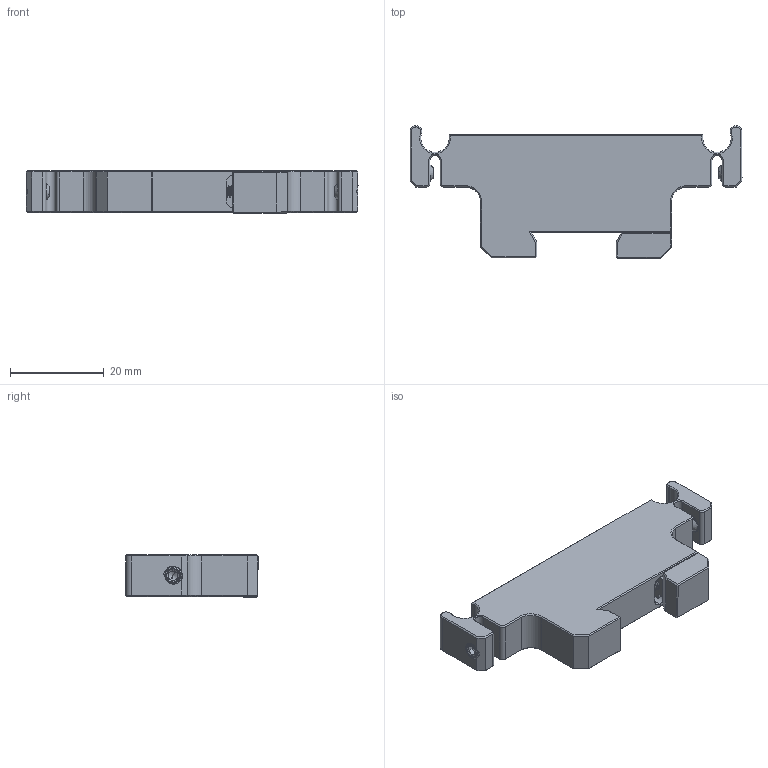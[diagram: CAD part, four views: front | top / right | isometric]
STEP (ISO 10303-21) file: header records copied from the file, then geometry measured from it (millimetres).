
FILE_DESCRIPTION((''),'2;1');
FILE_NAME('LRA60-B_ASM','2024-12-04T17:06:00',('R&D'),(''),'CREO PARAMETRIC BY PTC INC, 2021063','CREO PARAMETRIC BY PTC INC, 2021063','');
FILE_SCHEMA(('CONFIG_CONTROL_DESIGN'));
Products named in the file (9): LRA60-B-A3; LRA60-B-A4; LRA60-B-A5; LRA60-B-A6; LRA60-B-A7; LRA60-B-A8; LRA60-B-A2_ASM; LRA60-B-A1_ASM; LRA60-B_ASM
Assembly tree (8 placements, depth 4):
  LRA60-B_ASM
    LRA60-B-A1_ASM
      LRA60-B-A2_ASM
        LRA60-B-A3
        LRA60-B-A4
        LRA60-B-A5
        LRA60-B-A6
        LRA60-B-A7
        LRA60-B-A8
Bounding box: 70.64 x 28.19 x 9.04 mm (x, y, z)
Volume: 10862.3 mm3; surface area: 5835.6 mm2
Topology: 6 solids, 6 shells, 504 faces, 1339 edges, 839 vertices
Faces by surface type: cylinder 231, plane 151, cone 63, bspline 51, torus 4, extrusion 4
Entity records: 46642 total; most frequent: CARTESIAN_POINT 35149, ORIENTED_EDGE 2658, DIRECTION 1871, EDGE_CURVE 1329, VERTEX_POINT 839, VECTOR 633, LINE 629, AXIS2_PLACEMENT_3D 619
